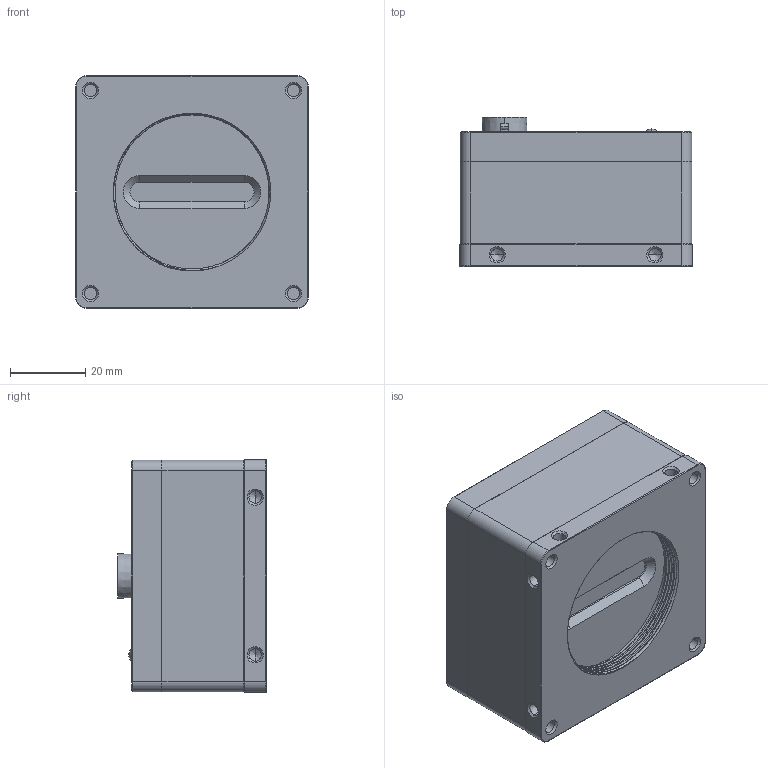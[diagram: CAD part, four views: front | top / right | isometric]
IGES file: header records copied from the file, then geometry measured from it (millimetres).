
Start section:  PTC IGES file: 0-dh3-3077-0002_sw0004.igs
Global section: file name: 0-dh3-3077-0002_sw0004.igs; native system: Creo Parametric by PTC Inc.; preprocessor: 2020184; author: 303992; organization: Unknown; date: 20231221.142527; units: millimetre
Bounding box: 62 x 39.6 x 62 mm (x, y, z)
Volume: 123996.7 mm3; surface area: 21120.8 mm2
Topology: 1 solids, 1 shells, 761 faces, 2031 edges, 1286 vertices
Faces by surface type: bspline 421, revolution 340
